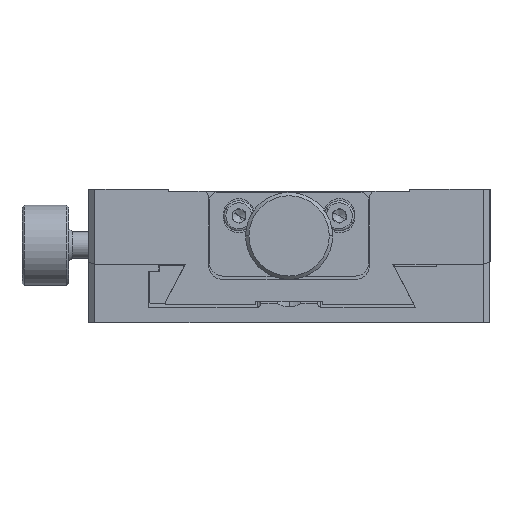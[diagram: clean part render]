
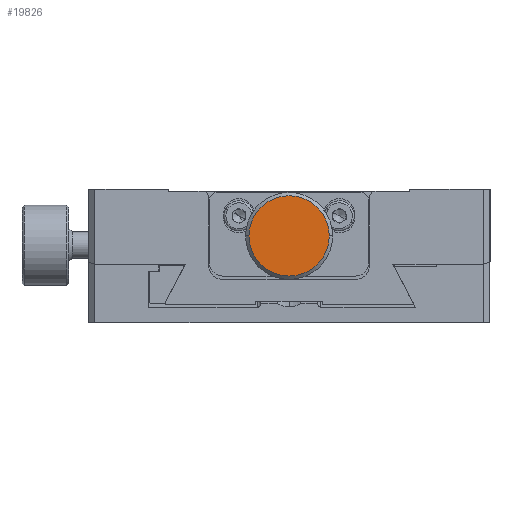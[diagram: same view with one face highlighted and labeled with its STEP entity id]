
A CAD part, left-side view. The second image highlights one B-rep face of the part: STEP entity #19826.
In plain terms, the highlighted planar face has unit normal (-1, 0, 0).
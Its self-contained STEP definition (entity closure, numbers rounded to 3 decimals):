
#168 = DIRECTION ( 'NONE',  ( 0., 1., 0. ) ) ;
#416 = EDGE_LOOP ( 'NONE', ( #7872, #16405 ) ) ;
#7498 = VERTEX_POINT ( 'NONE', #32256 ) ;
#7872 = ORIENTED_EDGE ( 'NONE', *, *, #30469, .T. ) ;
#8613 = AXIS2_PLACEMENT_3D ( 'NONE', #34271, #9687, #31579 ) ;
#8684 = CARTESIAN_POINT ( 'NONE',  ( -50., 0., 73. ) ) ;
#9687 = DIRECTION ( 'NONE',  ( 1., 0., 0. ) ) ;
#13517 = DIRECTION ( 'NONE',  ( 0., 1., 0. ) ) ;
#15575 = VERTEX_POINT ( 'NONE', #22467 ) ;
#16405 = ORIENTED_EDGE ( 'NONE', *, *, #29614, .T. ) ;
#16803 = AXIS2_PLACEMENT_3D ( 'NONE', #8684, #24656, #13517 ) ;
#18249 = AXIS2_PLACEMENT_3D ( 'NONE', #18823, #21891, #168 ) ;
#18823 = CARTESIAN_POINT ( 'NONE',  ( -50., 0., 73. ) ) ;
#18824 = CIRCLE ( 'NONE', #18249, 6. ) ;
#19826 = ADVANCED_FACE ( 'NONE', ( #23331 ), #25664, .F. ) ;
#21891 = DIRECTION ( 'NONE',  ( -1., 0., 0. ) ) ;
#22467 = CARTESIAN_POINT ( 'NONE',  ( -50., -6., 73. ) ) ;
#23331 = FACE_OUTER_BOUND ( 'NONE', #416, .T. ) ;
#24656 = DIRECTION ( 'NONE',  ( -1., 0., 0. ) ) ;
#25664 = PLANE ( 'NONE',  #8613 ) ;
#29614 = EDGE_CURVE ( 'NONE', #15575, #7498, #31151, .T. ) ;
#30469 = EDGE_CURVE ( 'NONE', #7498, #15575, #18824, .T. ) ;
#31151 = CIRCLE ( 'NONE', #16803, 6. ) ;
#31579 = DIRECTION ( 'NONE',  ( 0., 1., 0. ) ) ;
#32256 = CARTESIAN_POINT ( 'NONE',  ( -50., 6., 73. ) ) ;
#34271 = CARTESIAN_POINT ( 'NONE',  ( -50., 0., 73. ) ) ;
